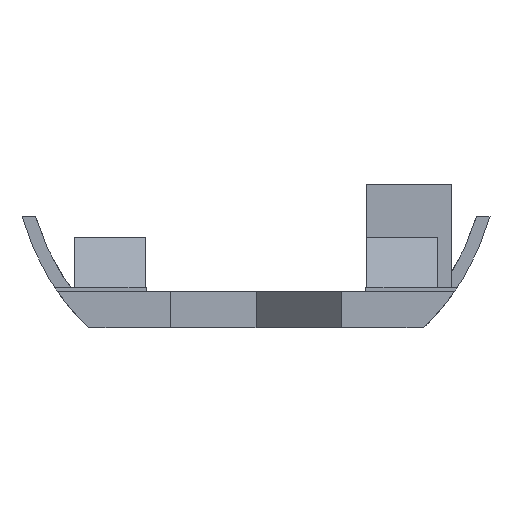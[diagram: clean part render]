
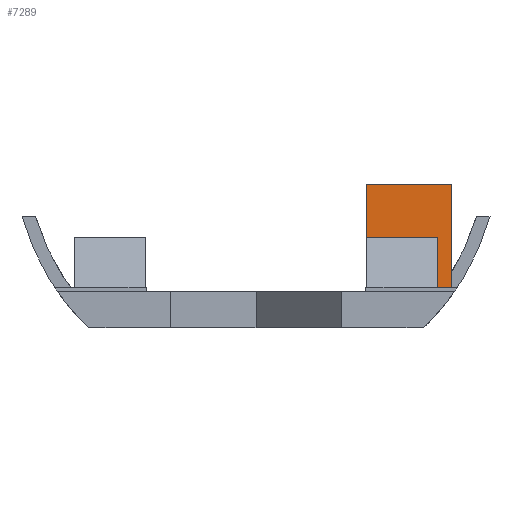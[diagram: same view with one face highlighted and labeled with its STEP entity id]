
A CAD part, left-side view. The second image highlights one B-rep face of the part: STEP entity #7289.
In plain terms, the highlighted planar face has unit normal (-1, 0, 0).
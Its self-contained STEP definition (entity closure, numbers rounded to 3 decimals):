
#32 = PLANE('',#33);
#33 = AXIS2_PLACEMENT_3D('',#34,#35,#36);
#34 = CARTESIAN_POINT('',(61.,-22.,-10.8));
#35 = DIRECTION('',(0.,0.,-1.));
#36 = DIRECTION('',(1.,0.,0.));
#2383 = VERTEX_POINT('',#2384);
#2384 = CARTESIAN_POINT('',(176.5,-8.5,-10.8));
#2399 = PLANE('',#2400);
#2400 = AXIS2_PLACEMENT_3D('',#2401,#2402,#2403);
#2401 = CARTESIAN_POINT('',(176.5,-8.5,-11.3));
#2402 = DIRECTION('',(-0.,1.,0.));
#2403 = DIRECTION('',(0.,0.,1.));
#2410 = EDGE_CURVE('',#2383,#2411,#2413,.T.);
#2411 = VERTEX_POINT('',#2412);
#2412 = CARTESIAN_POINT('',(176.5,-15.1,-10.8));
#2413 = SURFACE_CURVE('',#2414,(#2418,#2424),.PCURVE_S1.);
#2414 = LINE('',#2415,#2416);
#2415 = CARTESIAN_POINT('',(176.5,-18.55,-10.8));
#2416 = VECTOR('',#2417,1.);
#2417 = DIRECTION('',(0.,-1.,0.));
#2418 = PCURVE('',#32,#2419);
#2419 = DEFINITIONAL_REPRESENTATION('',(#2420),#2423);
#2420 = B_SPLINE_CURVE_WITH_KNOTS('',1,(#2421,#2422),.UNSPECIFIED.,.F.,
  .F.,(2,2),(-10.05,-3.45),.PIECEWISE_BEZIER_KNOTS.);
#2421 = CARTESIAN_POINT('',(115.5,-13.5));
#2422 = CARTESIAN_POINT('',(115.5,-6.9));
#2423 = ( GEOMETRIC_REPRESENTATION_CONTEXT(2) 
PARAMETRIC_REPRESENTATION_CONTEXT() REPRESENTATION_CONTEXT('2D SPACE',''
  ) );
#2424 = PCURVE('',#2425,#2430);
#2425 = PLANE('',#2426);
#2426 = AXIS2_PLACEMENT_3D('',#2427,#2428,#2429);
#2427 = CARTESIAN_POINT('',(176.5,-15.1,-11.3));
#2428 = DIRECTION('',(1.,0.,-0.));
#2429 = DIRECTION('',(0.,0.,1.));
#2430 = DEFINITIONAL_REPRESENTATION('',(#2431),#2434);
#2431 = B_SPLINE_CURVE_WITH_KNOTS('',1,(#2432,#2433),.UNSPECIFIED.,.F.,
  .F.,(2,2),(-10.05,-3.45),.PIECEWISE_BEZIER_KNOTS.);
#2432 = CARTESIAN_POINT('',(0.5,-6.6));
#2433 = CARTESIAN_POINT('',(0.5,0.));
#2434 = ( GEOMETRIC_REPRESENTATION_CONTEXT(2) 
PARAMETRIC_REPRESENTATION_CONTEXT() REPRESENTATION_CONTEXT('2D SPACE',''
  ) );
#2451 = PLANE('',#2452);
#2452 = AXIS2_PLACEMENT_3D('',#2453,#2454,#2455);
#2453 = CARTESIAN_POINT('',(176.5,-15.1,-11.3));
#2454 = DIRECTION('',(-0.,1.,0.));
#2455 = DIRECTION('',(0.,0.,1.));
#7241 = EDGE_CURVE('',#2383,#7242,#7244,.T.);
#7242 = VERTEX_POINT('',#7243);
#7243 = CARTESIAN_POINT('',(176.5,-8.5,-2.5));
#7244 = SURFACE_CURVE('',#7245,(#7249,#7256),.PCURVE_S1.);
#7245 = LINE('',#7246,#7247);
#7246 = CARTESIAN_POINT('',(176.5,-8.5,-11.3));
#7247 = VECTOR('',#7248,1.);
#7248 = DIRECTION('',(0.,0.,1.));
#7249 = PCURVE('',#2399,#7250);
#7250 = DEFINITIONAL_REPRESENTATION('',(#7251),#7255);
#7251 = LINE('',#7252,#7253);
#7252 = CARTESIAN_POINT('',(0.,0.));
#7253 = VECTOR('',#7254,1.);
#7254 = DIRECTION('',(1.,0.));
#7255 = ( GEOMETRIC_REPRESENTATION_CONTEXT(2) 
PARAMETRIC_REPRESENTATION_CONTEXT() REPRESENTATION_CONTEXT('2D SPACE',''
  ) );
#7256 = PCURVE('',#2425,#7257);
#7257 = DEFINITIONAL_REPRESENTATION('',(#7258),#7262);
#7258 = LINE('',#7259,#7260);
#7259 = CARTESIAN_POINT('',(0.,-6.6));
#7260 = VECTOR('',#7261,1.);
#7261 = DIRECTION('',(1.,0.));
#7262 = ( GEOMETRIC_REPRESENTATION_CONTEXT(2) 
PARAMETRIC_REPRESENTATION_CONTEXT() REPRESENTATION_CONTEXT('2D SPACE',''
  ) );
#7278 = PLANE('',#7279);
#7279 = AXIS2_PLACEMENT_3D('',#7280,#7281,#7282);
#7280 = CARTESIAN_POINT('',(176.5,-15.1,-2.5));
#7281 = DIRECTION('',(0.,0.,1.));
#7282 = DIRECTION('',(1.,0.,-0.));
#7289 = ADVANCED_FACE('',(#7290),#2425,.F.);
#7290 = FACE_BOUND('',#7291,.F.);
#7291 = EDGE_LOOP('',(#7292,#7315,#7316,#7317));
#7292 = ORIENTED_EDGE('',*,*,#7293,.F.);
#7293 = EDGE_CURVE('',#2411,#7294,#7296,.T.);
#7294 = VERTEX_POINT('',#7295);
#7295 = CARTESIAN_POINT('',(176.5,-15.1,-2.5));
#7296 = SURFACE_CURVE('',#7297,(#7301,#7308),.PCURVE_S1.);
#7297 = LINE('',#7298,#7299);
#7298 = CARTESIAN_POINT('',(176.5,-15.1,-11.3));
#7299 = VECTOR('',#7300,1.);
#7300 = DIRECTION('',(0.,0.,1.));
#7301 = PCURVE('',#2425,#7302);
#7302 = DEFINITIONAL_REPRESENTATION('',(#7303),#7307);
#7303 = LINE('',#7304,#7305);
#7304 = CARTESIAN_POINT('',(0.,0.));
#7305 = VECTOR('',#7306,1.);
#7306 = DIRECTION('',(1.,0.));
#7307 = ( GEOMETRIC_REPRESENTATION_CONTEXT(2) 
PARAMETRIC_REPRESENTATION_CONTEXT() REPRESENTATION_CONTEXT('2D SPACE',''
  ) );
#7308 = PCURVE('',#2451,#7309);
#7309 = DEFINITIONAL_REPRESENTATION('',(#7310),#7314);
#7310 = LINE('',#7311,#7312);
#7311 = CARTESIAN_POINT('',(0.,0.));
#7312 = VECTOR('',#7313,1.);
#7313 = DIRECTION('',(1.,0.));
#7314 = ( GEOMETRIC_REPRESENTATION_CONTEXT(2) 
PARAMETRIC_REPRESENTATION_CONTEXT() REPRESENTATION_CONTEXT('2D SPACE',''
  ) );
#7315 = ORIENTED_EDGE('',*,*,#2410,.F.);
#7316 = ORIENTED_EDGE('',*,*,#7241,.T.);
#7317 = ORIENTED_EDGE('',*,*,#7318,.F.);
#7318 = EDGE_CURVE('',#7294,#7242,#7319,.T.);
#7319 = SURFACE_CURVE('',#7320,(#7324,#7331),.PCURVE_S1.);
#7320 = LINE('',#7321,#7322);
#7321 = CARTESIAN_POINT('',(176.5,-15.1,-2.5));
#7322 = VECTOR('',#7323,1.);
#7323 = DIRECTION('',(-0.,1.,0.));
#7324 = PCURVE('',#2425,#7325);
#7325 = DEFINITIONAL_REPRESENTATION('',(#7326),#7330);
#7326 = LINE('',#7327,#7328);
#7327 = CARTESIAN_POINT('',(8.8,0.));
#7328 = VECTOR('',#7329,1.);
#7329 = DIRECTION('',(0.,-1.));
#7330 = ( GEOMETRIC_REPRESENTATION_CONTEXT(2) 
PARAMETRIC_REPRESENTATION_CONTEXT() REPRESENTATION_CONTEXT('2D SPACE',''
  ) );
#7331 = PCURVE('',#7278,#7332);
#7332 = DEFINITIONAL_REPRESENTATION('',(#7333),#7337);
#7333 = LINE('',#7334,#7335);
#7334 = CARTESIAN_POINT('',(0.,0.));
#7335 = VECTOR('',#7336,1.);
#7336 = DIRECTION('',(0.,1.));
#7337 = ( GEOMETRIC_REPRESENTATION_CONTEXT(2) 
PARAMETRIC_REPRESENTATION_CONTEXT() REPRESENTATION_CONTEXT('2D SPACE',''
  ) );
